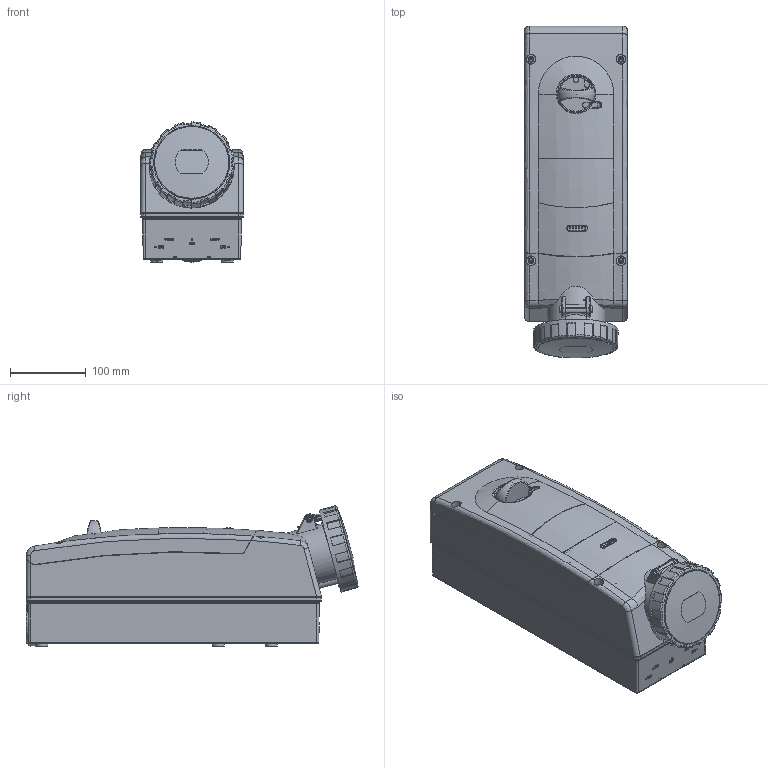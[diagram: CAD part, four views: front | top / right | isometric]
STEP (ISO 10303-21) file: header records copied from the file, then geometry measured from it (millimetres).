
FILE_DESCRIPTION(/* description */ (''),/* implementation_level */ '2;1');
FILE_NAME(/* name */ '4003979.stp',/* time_stamp */ '2019-10-22T08:20:54+02:00',/* author */ (''),/* organization */ (''),/* preprocessor_version */ 'ST-DEVELOPER v16.7',/* originating_system */ 'SIEMENS PLM Software NX 1888',/* authorisation */ '');
FILE_SCHEMA (('AUTOMOTIVE_DESIGN { 1 0 10303 214 3 1 1 1 }'));
Length unit declared in the file: millimetre
Products named in the file (1): BSOM396CA1F9rl77
Bounding box: 136 x 438.33 x 185.02 mm (x, y, z)
Volume: 1037024.7 mm3; surface area: 817682 mm2
Topology: 24 solids, 24 shells, 3345 faces, 8843 edges, 5651 vertices
Faces by surface type: plane 1515, cylinder 837, bspline 328, extrusion 239, torus 192, cone 186, sphere 43, revolution 5
Full cylindrical faces by diameter (mm): 0.998 x4, 1.5 x1, 2 x2, 2.1 x2, 2.5 x2, 2.7 x1, 2.8 x8, 2.9 x8, 3 x4, 3.2 x6, 3.5 x2, 4 x10, 4.1 x2, 4.4 x4, 6.5 x6, 6.8 x2, 6.98 x2, 7.5 x4, 8.4 x2, 11.4 x2, 13 x2, 14.2 x4, 15.3 x1, 16 x6, 21.3 x1, 25.2 x1, 25.4 x1, 25.6 x1, 30.1 x1, 30.6 x1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
Entity records: 149984 total; most frequent: CARTESIAN_POINT 71948, ORIENTED_EDGE 16988, DIRECTION 14398, EDGE_CURVE 8494, VERTEX_POINT 5560, AXIS2_PLACEMENT_3D 5116, VECTOR 4161, LINE 3922
